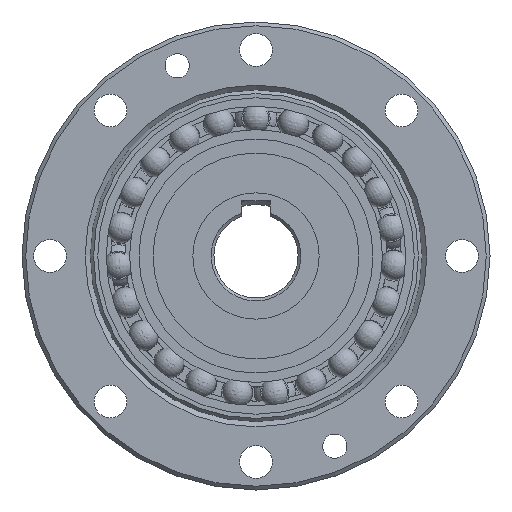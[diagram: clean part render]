
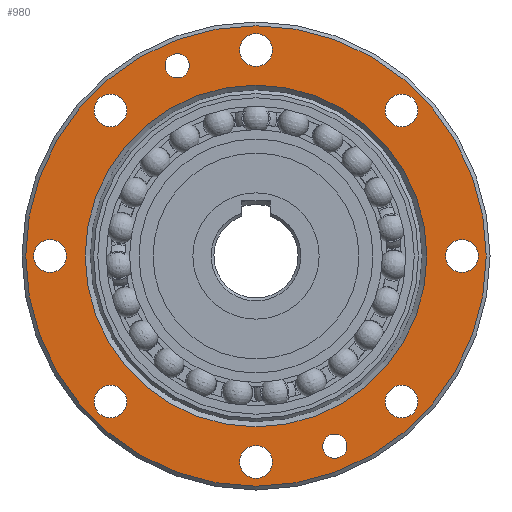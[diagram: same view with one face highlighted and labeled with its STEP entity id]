
A CAD part, left-side view. The second image highlights one B-rep face of the part: STEP entity #980.
In plain terms, the highlighted planar face has unit normal (-1, 0, 0).
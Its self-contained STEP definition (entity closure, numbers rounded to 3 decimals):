
#980=ADVANCED_FACE('',(#1345,#1346,#1347,#1348,#1349,#1350,#1351,#1352,
#1353,#1354,#1355,#1356),#1206,.F.);
#1206=PLANE('',#4268);
#1345=FACE_BOUND('',#1566,.T.);
#1346=FACE_BOUND('',#1567,.T.);
#1347=FACE_BOUND('',#1568,.T.);
#1348=FACE_BOUND('',#1569,.T.);
#1349=FACE_BOUND('',#1570,.T.);
#1350=FACE_BOUND('',#1571,.T.);
#1351=FACE_BOUND('',#1572,.T.);
#1352=FACE_BOUND('',#1573,.T.);
#1353=FACE_BOUND('',#1574,.T.);
#1354=FACE_BOUND('',#1575,.T.);
#1355=FACE_BOUND('',#1576,.T.);
#1356=FACE_BOUND('',#1577,.T.);
#1566=EDGE_LOOP('',(#1908));
#1567=EDGE_LOOP('',(#1909));
#1568=EDGE_LOOP('',(#1910));
#1569=EDGE_LOOP('',(#1911));
#1570=EDGE_LOOP('',(#1912));
#1571=EDGE_LOOP('',(#1913));
#1572=EDGE_LOOP('',(#1914));
#1573=EDGE_LOOP('',(#1915));
#1574=EDGE_LOOP('',(#1916));
#1575=EDGE_LOOP('',(#1917));
#1576=EDGE_LOOP('',(#1918));
#1577=EDGE_LOOP('',(#1919));
#1908=ORIENTED_EDGE('',*,*,#3341,.T.);
#1909=ORIENTED_EDGE('',*,*,#3342,.T.);
#1910=ORIENTED_EDGE('',*,*,#3343,.T.);
#1911=ORIENTED_EDGE('',*,*,#3344,.T.);
#1912=ORIENTED_EDGE('',*,*,#3345,.T.);
#1913=ORIENTED_EDGE('',*,*,#3346,.T.);
#1914=ORIENTED_EDGE('',*,*,#3347,.T.);
#1915=ORIENTED_EDGE('',*,*,#3348,.T.);
#1916=ORIENTED_EDGE('',*,*,#3349,.T.);
#1917=ORIENTED_EDGE('',*,*,#3350,.T.);
#1918=ORIENTED_EDGE('',*,*,#3351,.T.);
#1919=ORIENTED_EDGE('',*,*,#3352,.T.);
#2933=VERTEX_POINT('',#5855);
#2934=VERTEX_POINT('',#5857);
#2935=VERTEX_POINT('',#5859);
#2936=VERTEX_POINT('',#5861);
#2937=VERTEX_POINT('',#5863);
#2938=VERTEX_POINT('',#5865);
#2939=VERTEX_POINT('',#5867);
#2940=VERTEX_POINT('',#5869);
#2941=VERTEX_POINT('',#5871);
#2942=VERTEX_POINT('',#5873);
#2943=VERTEX_POINT('',#5875);
#2944=VERTEX_POINT('',#5877);
#3341=EDGE_CURVE('',#2933,#2933,#3894,.T.);
#3342=EDGE_CURVE('',#2934,#2934,#3895,.T.);
#3343=EDGE_CURVE('',#2935,#2935,#3896,.T.);
#3344=EDGE_CURVE('',#2936,#2936,#3897,.T.);
#3345=EDGE_CURVE('',#2937,#2937,#3898,.T.);
#3346=EDGE_CURVE('',#2938,#2938,#3899,.T.);
#3347=EDGE_CURVE('',#2939,#2939,#3900,.T.);
#3348=EDGE_CURVE('',#2940,#2940,#3901,.T.);
#3349=EDGE_CURVE('',#2941,#2941,#3902,.T.);
#3350=EDGE_CURVE('',#2942,#2942,#3903,.T.);
#3351=EDGE_CURVE('',#2943,#2943,#3904,.T.);
#3352=EDGE_CURVE('',#2944,#2944,#3905,.T.);
#3894=CIRCLE('',#4256,18.25);
#3895=CIRCLE('',#4257,24.6);
#3896=CIRCLE('',#4258,1.3);
#3897=CIRCLE('',#4259,1.3);
#3898=CIRCLE('',#4260,1.75);
#3899=CIRCLE('',#4261,1.75);
#3900=CIRCLE('',#4262,1.75);
#3901=CIRCLE('',#4263,1.75);
#3902=CIRCLE('',#4264,1.75);
#3903=CIRCLE('',#4265,1.75);
#3904=CIRCLE('',#4266,1.75);
#3905=CIRCLE('',#4267,1.75);
#4256=AXIS2_PLACEMENT_3D('',#5854,#4818,#4819);
#4257=AXIS2_PLACEMENT_3D('',#5856,#4820,#4821);
#4258=AXIS2_PLACEMENT_3D('',#5858,#4822,#4823);
#4259=AXIS2_PLACEMENT_3D('',#5860,#4824,#4825);
#4260=AXIS2_PLACEMENT_3D('',#5862,#4826,#4827);
#4261=AXIS2_PLACEMENT_3D('',#5864,#4828,#4829);
#4262=AXIS2_PLACEMENT_3D('',#5866,#4830,#4831);
#4263=AXIS2_PLACEMENT_3D('',#5868,#4832,#4833);
#4264=AXIS2_PLACEMENT_3D('',#5870,#4834,#4835);
#4265=AXIS2_PLACEMENT_3D('',#5872,#4836,#4837);
#4266=AXIS2_PLACEMENT_3D('',#5874,#4838,#4839);
#4267=AXIS2_PLACEMENT_3D('',#5876,#4840,#4841);
#4268=AXIS2_PLACEMENT_3D('',#5878,#4842,#4843);
#4818=DIRECTION('',(1.,0.,0.));
#4819=DIRECTION('',(0.,0.,-1.));
#4820=DIRECTION('',(-1.,0.,0.));
#4821=DIRECTION('',(0.,0.,-1.));
#4822=DIRECTION('',(1.,0.,0.));
#4823=DIRECTION('',(0.,0.,-1.));
#4824=DIRECTION('',(1.,0.,0.));
#4825=DIRECTION('',(0.,0.,-1.));
#4826=DIRECTION('',(1.,0.,0.));
#4827=DIRECTION('',(0.,0.,-1.));
#4828=DIRECTION('',(1.,0.,0.));
#4829=DIRECTION('',(0.,0.,-1.));
#4830=DIRECTION('',(1.,0.,0.));
#4831=DIRECTION('',(0.,0.,-1.));
#4832=DIRECTION('',(1.,0.,0.));
#4833=DIRECTION('',(0.,0.,-1.));
#4834=DIRECTION('',(1.,0.,0.));
#4835=DIRECTION('',(0.,0.,-1.));
#4836=DIRECTION('',(1.,0.,0.));
#4837=DIRECTION('',(0.,0.,-1.));
#4838=DIRECTION('',(1.,0.,0.));
#4839=DIRECTION('',(0.,0.,-1.));
#4840=DIRECTION('',(1.,0.,0.));
#4841=DIRECTION('',(0.,0.,-1.));
#4842=DIRECTION('',(1.,0.,0.));
#4843=DIRECTION('',(0.,0.,-1.));
#5854=CARTESIAN_POINT('',(0.,0.,0.));
#5855=CARTESIAN_POINT('',(0.,0.,-18.25));
#5856=CARTESIAN_POINT('',(0.,0.,0.));
#5857=CARTESIAN_POINT('',(0.,0.,-24.6));
#5858=CARTESIAN_POINT('',(0.,-8.419,-20.325));
#5859=CARTESIAN_POINT('',(0.,-8.419,-21.625));
#5860=CARTESIAN_POINT('',(0.,8.419,20.325));
#5861=CARTESIAN_POINT('',(0.,8.419,19.025));
#5862=CARTESIAN_POINT('',(0.,0.,22.));
#5863=CARTESIAN_POINT('',(0.,0.,20.25));
#5864=CARTESIAN_POINT('',(0.,15.556,15.556));
#5865=CARTESIAN_POINT('',(0.,15.556,13.806));
#5866=CARTESIAN_POINT('',(0.,22.,0.));
#5867=CARTESIAN_POINT('',(0.,22.,-1.75));
#5868=CARTESIAN_POINT('',(0.,15.556,-15.556));
#5869=CARTESIAN_POINT('',(0.,15.556,-17.306));
#5870=CARTESIAN_POINT('',(0.,0.,-22.));
#5871=CARTESIAN_POINT('',(0.,0.,-23.75));
#5872=CARTESIAN_POINT('',(0.,-15.556,-15.556));
#5873=CARTESIAN_POINT('',(0.,-15.556,-17.306));
#5874=CARTESIAN_POINT('',(0.,-22.,0.));
#5875=CARTESIAN_POINT('',(0.,-22.,-1.75));
#5876=CARTESIAN_POINT('',(0.,-15.556,15.556));
#5877=CARTESIAN_POINT('',(0.,-15.556,13.806));
#5878=CARTESIAN_POINT('',(0.,0.,25.));
